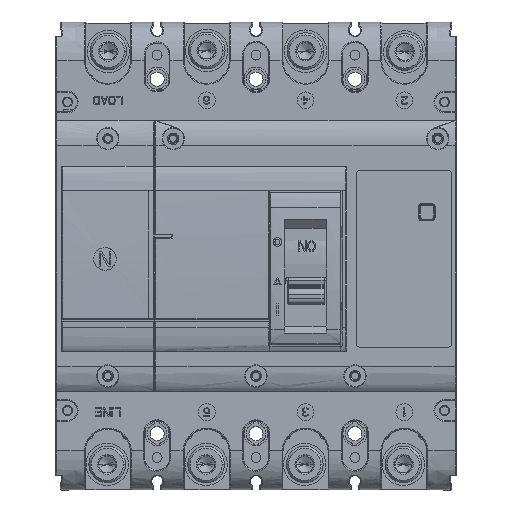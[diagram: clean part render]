
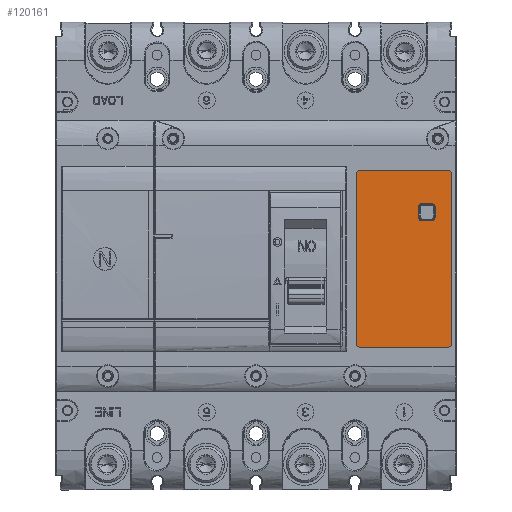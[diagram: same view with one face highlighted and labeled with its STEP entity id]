
A CAD part, top view. The second image highlights one B-rep face of the part: STEP entity #120161.
In plain terms, the highlighted planar face has unit normal (0, 0, 1).
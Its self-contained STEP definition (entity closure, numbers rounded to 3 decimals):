
#108652=CARTESIAN_POINT('',(-348.032,-30.904,9.277));
#108653=DIRECTION('',(0.,0.,-1.));
#108654=DIRECTION('',(0.,-1.,0.));
#108655=AXIS2_PLACEMENT_3D('',#108652,#108653,#108654);
#108657=DIRECTION('',(0.,1.,0.));
#108658=VECTOR('',#108657,59.787);
#108659=CARTESIAN_POINT('',(-349.532,-30.904,9.277));
#108660=LINE('',#108659,#108658);
#108661=CARTESIAN_POINT('',(-348.032,28.883,9.277));
#108662=DIRECTION('',(0.,0.,-1.));
#108663=DIRECTION('',(-1.,0.,0.));
#108664=AXIS2_PLACEMENT_3D('',#108661,#108662,#108663);
#108666=DIRECTION('',(1.,0.,0.));
#108667=VECTOR('',#108666,30.8);
#108668=CARTESIAN_POINT('',(-348.032,30.383,9.277));
#108669=LINE('',#108668,#108667);
#108670=CARTESIAN_POINT('',(-317.232,28.883,9.277));
#108671=DIRECTION('',(0.,0.,-1.));
#108672=DIRECTION('',(0.,1.,0.));
#108673=AXIS2_PLACEMENT_3D('',#108670,#108671,#108672);
#108675=DIRECTION('',(0.,-1.,0.));
#108676=VECTOR('',#108675,59.787);
#108677=CARTESIAN_POINT('',(-315.732,28.883,9.277));
#108678=LINE('',#108677,#108676);
#108679=CARTESIAN_POINT('',(-317.232,-30.904,9.277));
#108680=DIRECTION('',(0.,0.,-1.));
#108681=DIRECTION('',(1.,0.,0.));
#108682=AXIS2_PLACEMENT_3D('',#108679,#108680,#108681);
#108684=DIRECTION('',(-1.,0.,0.));
#108685=VECTOR('',#108684,30.8);
#108686=CARTESIAN_POINT('',(-317.232,-32.404,9.277));
#108687=LINE('',#108686,#108685);
#108688=DIRECTION('',(-1.,0.,0.));
#108689=VECTOR('',#108688,3.6);
#108690=CARTESIAN_POINT('',(-322.8,12.523,
9.277));
#108691=LINE('',#108690,#108689);
#108692=CARTESIAN_POINT('',(-322.8,13.723,
9.277));
#108693=DIRECTION('',(0.,0.,-1.));
#108694=DIRECTION('',(1.,0.,0.));
#108695=AXIS2_PLACEMENT_3D('',#108692,#108693,#108694);
#108697=DIRECTION('',(0.,-1.,0.));
#108698=VECTOR('',#108697,3.6);
#108699=CARTESIAN_POINT('',(-321.6,17.323,
9.277));
#108700=LINE('',#108699,#108698);
#108701=CARTESIAN_POINT('',(-322.8,17.323,
9.277));
#108702=DIRECTION('',(0.,0.,-1.));
#108703=DIRECTION('',(0.,1.,0.));
#108704=AXIS2_PLACEMENT_3D('',#108701,#108702,#108703);
#108706=DIRECTION('',(1.,0.,0.));
#108707=VECTOR('',#108706,3.6);
#108708=CARTESIAN_POINT('',(-326.4,18.523,
9.277));
#108709=LINE('',#108708,#108707);
#108710=CARTESIAN_POINT('',(-326.4,17.323,
9.277));
#108711=DIRECTION('',(0.,0.,-1.));
#108712=DIRECTION('',(-1.,0.,0.));
#108713=AXIS2_PLACEMENT_3D('',#108710,#108711,#108712);
#108715=DIRECTION('',(0.,1.,0.));
#108716=VECTOR('',#108715,3.6);
#108717=CARTESIAN_POINT('',(-327.6,13.723,
9.277));
#108718=LINE('',#108717,#108716);
#108719=CARTESIAN_POINT('',(-326.4,13.723,
9.277));
#108720=DIRECTION('',(0.,0.,-1.));
#108721=DIRECTION('',(0.,-1.,0.));
#108722=AXIS2_PLACEMENT_3D('',#108719,#108720,#108721);
#117056=CARTESIAN_POINT('',(-349.532,-30.904,9.277));
#117057=VERTEX_POINT('',#117056);
#117058=CARTESIAN_POINT('',(-348.032,-32.404,9.277));
#117059=VERTEX_POINT('',#117058);
#117060=CARTESIAN_POINT('',(-349.532,28.883,9.277));
#117061=VERTEX_POINT('',#117060);
#117062=CARTESIAN_POINT('',(-348.032,30.383,9.277));
#117063=VERTEX_POINT('',#117062);
#117064=CARTESIAN_POINT('',(-317.232,30.383,9.277));
#117065=VERTEX_POINT('',#117064);
#117066=CARTESIAN_POINT('',(-315.732,28.883,9.277));
#117067=VERTEX_POINT('',#117066);
#117068=CARTESIAN_POINT('',(-315.732,-30.904,9.277));
#117069=VERTEX_POINT('',#117068);
#117070=CARTESIAN_POINT('',(-317.232,-32.404,9.277));
#117071=VERTEX_POINT('',#117070);
#118384=CARTESIAN_POINT('',(-322.8,12.523,
9.277));
#118385=CARTESIAN_POINT('',(-326.4,12.523,
9.277));
#118386=VERTEX_POINT('',#118384);
#118387=VERTEX_POINT('',#118385);
#118392=CARTESIAN_POINT('',(-327.6,13.723,
9.277));
#118393=VERTEX_POINT('',#118392);
#118396=CARTESIAN_POINT('',(-327.6,17.323,
9.277));
#118397=VERTEX_POINT('',#118396);
#118400=CARTESIAN_POINT('',(-326.4,18.523,
9.277));
#118401=VERTEX_POINT('',#118400);
#118404=CARTESIAN_POINT('',(-322.8,18.523,
9.277));
#118405=VERTEX_POINT('',#118404);
#118408=CARTESIAN_POINT('',(-321.6,17.323,
9.277));
#118409=VERTEX_POINT('',#118408);
#118412=CARTESIAN_POINT('',(-321.6,13.723,
9.277));
#118413=VERTEX_POINT('',#118412);
#120128=CARTESIAN_POINT('',(-219.532,31.883,9.277));
#120129=DIRECTION('',(0.,0.,1.));
#120130=DIRECTION('',(-1.,0.,0.));
#120131=AXIS2_PLACEMENT_3D('',#120128,#120129,#120130);
#120132=PLANE('',#120131);
#120133=ORIENTED_EDGE('',*,*,#120024,.T.);
#120134=ORIENTED_EDGE('',*,*,#120039,.T.);
#120135=ORIENTED_EDGE('',*,*,#120053,.T.);
#120136=ORIENTED_EDGE('',*,*,#120067,.T.);
#120137=ORIENTED_EDGE('',*,*,#120081,.T.);
#120138=ORIENTED_EDGE('',*,*,#120095,.T.);
#120139=ORIENTED_EDGE('',*,*,#120109,.T.);
#120140=ORIENTED_EDGE('',*,*,#120122,.T.);
#120141=EDGE_LOOP('',(#120133,#120134,#120135,#120136,#120137,#120138,#120139,
#120140));
#120142=FACE_OUTER_BOUND('',#120141,.F.);
#120144=ORIENTED_EDGE('',*,*,#120143,.F.);
#120146=ORIENTED_EDGE('',*,*,#120145,.F.);
#120148=ORIENTED_EDGE('',*,*,#120147,.F.);
#120150=ORIENTED_EDGE('',*,*,#120149,.F.);
#120152=ORIENTED_EDGE('',*,*,#120151,.F.);
#120154=ORIENTED_EDGE('',*,*,#120153,.F.);
#120156=ORIENTED_EDGE('',*,*,#120155,.F.);
#120158=ORIENTED_EDGE('',*,*,#120157,.F.);
#120159=EDGE_LOOP('',(#120144,#120146,#120148,#120150,#120152,#120154,#120156,
#120158));
#120160=FACE_BOUND('',#120159,.F.);
#120161=ADVANCED_FACE('',(#120142,#120160),#120132,.T.);
#108656=CIRCLE('',#108655,1.5);
#108665=CIRCLE('',#108664,1.5);
#108674=CIRCLE('',#108673,1.5);
#108683=CIRCLE('',#108682,1.5);
#108696=CIRCLE('',#108695,1.2);
#108705=CIRCLE('',#108704,1.2);
#108714=CIRCLE('',#108713,1.2);
#108723=CIRCLE('',#108722,1.2);
#120024=EDGE_CURVE('',#117059,#117057,#108656,.T.);
#120039=EDGE_CURVE('',#117057,#117061,#108660,.T.);
#120053=EDGE_CURVE('',#117061,#117063,#108665,.T.);
#120067=EDGE_CURVE('',#117063,#117065,#108669,.T.);
#120081=EDGE_CURVE('',#117065,#117067,#108674,.T.);
#120095=EDGE_CURVE('',#117067,#117069,#108678,.T.);
#120109=EDGE_CURVE('',#117069,#117071,#108683,.T.);
#120122=EDGE_CURVE('',#117071,#117059,#108687,.T.);
#120143=EDGE_CURVE('',#118386,#118387,#108691,.T.);
#120145=EDGE_CURVE('',#118413,#118386,#108696,.T.);
#120147=EDGE_CURVE('',#118409,#118413,#108700,.T.);
#120149=EDGE_CURVE('',#118405,#118409,#108705,.T.);
#120151=EDGE_CURVE('',#118401,#118405,#108709,.T.);
#120153=EDGE_CURVE('',#118397,#118401,#108714,.T.);
#120155=EDGE_CURVE('',#118393,#118397,#108718,.T.);
#120157=EDGE_CURVE('',#118387,#118393,#108723,.T.);
